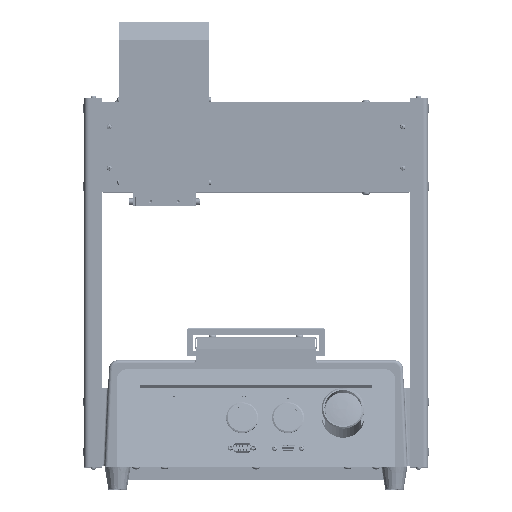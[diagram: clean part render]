
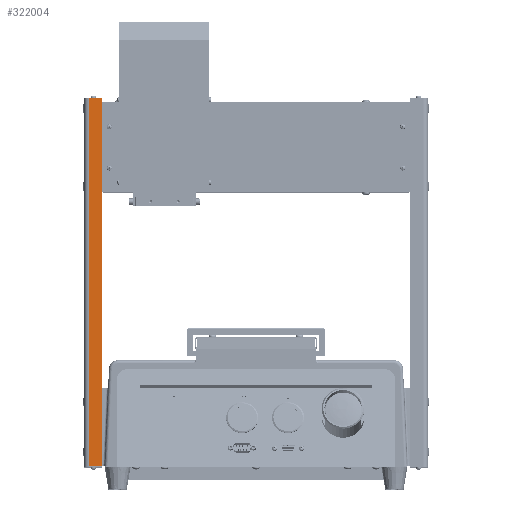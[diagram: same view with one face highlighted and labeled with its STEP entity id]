
A CAD part, top view. The second image highlights one B-rep face of the part: STEP entity #322004.
In plain terms, the highlighted planar face has unit normal (0, 0, 1).
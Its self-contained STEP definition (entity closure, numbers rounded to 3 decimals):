
#178840 = PLANE('',#178841);
#178841 = AXIS2_PLACEMENT_3D('',#178842,#178843,#178844);
#178842 = CARTESIAN_POINT('',(71.735,196.831,
    413.684));
#178843 = DIRECTION('',(0.,1.,0.));
#178844 = DIRECTION('',(0.,0.,1.));
#198396 = PLANE('',#198397);
#198397 = AXIS2_PLACEMENT_3D('',#198398,#198399,#198400);
#198398 = CARTESIAN_POINT('',(54.235,598.331,
    65.184));
#198399 = DIRECTION('',(0.,-1.,0.));
#198400 = DIRECTION('',(0.,0.,-1.));
#278687 = VERTEX_POINT('',#278688);
#278688 = CARTESIAN_POINT('',(54.235,598.331,
    162.184));
#278703 = CYLINDRICAL_SURFACE('',#278704,5.);
#278704 = AXIS2_PLACEMENT_3D('',#278705,#278706,#278707);
#278705 = CARTESIAN_POINT('',(54.235,596.831,
    157.184));
#278706 = DIRECTION('',(0.,-1.,0.));
#278707 = DIRECTION('',(-1.,0.,0.));
#278715 = EDGE_CURVE('',#278716,#278687,#278718,.T.);
#278716 = VERTEX_POINT('',#278717);
#278717 = CARTESIAN_POINT('',(68.235,598.331,
    162.184));
#278718 = SURFACE_CURVE('',#278719,(#278723,#278730),.PCURVE_S1.);
#278719 = LINE('',#278720,#278721);
#278720 = CARTESIAN_POINT('',(54.235,598.331,
    162.184));
#278721 = VECTOR('',#278722,1.);
#278722 = DIRECTION('',(-1.,0.,0.));
#278723 = PCURVE('',#198396,#278724);
#278724 = DEFINITIONAL_REPRESENTATION('',(#278725),#278729);
#278725 = LINE('',#278726,#278727);
#278726 = CARTESIAN_POINT('',(-97.,0.));
#278727 = VECTOR('',#278728,1.);
#278728 = DIRECTION('',(0.,-1.));
#278729 = ( GEOMETRIC_REPRESENTATION_CONTEXT(2) 
PARAMETRIC_REPRESENTATION_CONTEXT() REPRESENTATION_CONTEXT('2D SPACE',''
  ) );
#278730 = PCURVE('',#278731,#278736);
#278731 = PLANE('',#278732);
#278732 = AXIS2_PLACEMENT_3D('',#278733,#278734,#278735);
#278733 = CARTESIAN_POINT('',(69.235,596.831,
    162.184));
#278734 = DIRECTION('',(0.,0.,1.));
#278735 = DIRECTION('',(1.,0.,0.));
#278736 = DEFINITIONAL_REPRESENTATION('',(#278737),#278741);
#278737 = LINE('',#278738,#278739);
#278738 = CARTESIAN_POINT('',(-15.,1.5));
#278739 = VECTOR('',#278740,1.);
#278740 = DIRECTION('',(-1.,0.));
#278741 = ( GEOMETRIC_REPRESENTATION_CONTEXT(2) 
PARAMETRIC_REPRESENTATION_CONTEXT() REPRESENTATION_CONTEXT('2D SPACE',''
  ) );
#278760 = CYLINDRICAL_SURFACE('',#278761,1.);
#278761 = AXIS2_PLACEMENT_3D('',#278762,#278763,#278764);
#278762 = CARTESIAN_POINT('',(68.235,596.831,
    161.184));
#278763 = DIRECTION('',(0.,-1.,0.));
#278764 = DIRECTION('',(-1.,0.,0.));
#322004 = ADVANCED_FACE('',(#322005),#278731,.T.);
#322005 = FACE_BOUND('',#322006,.T.);
#322006 = EDGE_LOOP('',(#322007,#322032,#322053,#322054));
#322007 = ORIENTED_EDGE('',*,*,#322008,.F.);
#322008 = EDGE_CURVE('',#322009,#322011,#322013,.T.);
#322009 = VERTEX_POINT('',#322010);
#322010 = CARTESIAN_POINT('',(68.235,196.831,
    162.184));
#322011 = VERTEX_POINT('',#322012);
#322012 = CARTESIAN_POINT('',(54.235,196.831,
    162.184));
#322013 = SURFACE_CURVE('',#322014,(#322018,#322025),.PCURVE_S1.);
#322014 = LINE('',#322015,#322016);
#322015 = CARTESIAN_POINT('',(69.235,196.831,
    162.184));
#322016 = VECTOR('',#322017,1.);
#322017 = DIRECTION('',(-1.,0.,0.));
#322018 = PCURVE('',#278731,#322019);
#322019 = DEFINITIONAL_REPRESENTATION('',(#322020),#322024);
#322020 = LINE('',#322021,#322022);
#322021 = CARTESIAN_POINT('',(0.,-400.));
#322022 = VECTOR('',#322023,1.);
#322023 = DIRECTION('',(-1.,0.));
#322024 = ( GEOMETRIC_REPRESENTATION_CONTEXT(2) 
PARAMETRIC_REPRESENTATION_CONTEXT() REPRESENTATION_CONTEXT('2D SPACE',''
  ) );
#322025 = PCURVE('',#178840,#322026);
#322026 = DEFINITIONAL_REPRESENTATION('',(#322027),#322031);
#322027 = LINE('',#322028,#322029);
#322028 = CARTESIAN_POINT('',(-251.5,-2.5));
#322029 = VECTOR('',#322030,1.);
#322030 = DIRECTION('',(0.,-1.));
#322031 = ( GEOMETRIC_REPRESENTATION_CONTEXT(2) 
PARAMETRIC_REPRESENTATION_CONTEXT() REPRESENTATION_CONTEXT('2D SPACE',''
  ) );
#322032 = ORIENTED_EDGE('',*,*,#322033,.F.);
#322033 = EDGE_CURVE('',#278716,#322009,#322034,.T.);
#322034 = SURFACE_CURVE('',#322035,(#322039,#322046),.PCURVE_S1.);
#322035 = LINE('',#322036,#322037);
#322036 = CARTESIAN_POINT('',(68.235,596.831,
    162.184));
#322037 = VECTOR('',#322038,1.);
#322038 = DIRECTION('',(0.,-1.,0.));
#322039 = PCURVE('',#278731,#322040);
#322040 = DEFINITIONAL_REPRESENTATION('',(#322041),#322045);
#322041 = LINE('',#322042,#322043);
#322042 = CARTESIAN_POINT('',(-1.,0.));
#322043 = VECTOR('',#322044,1.);
#322044 = DIRECTION('',(0.,-1.));
#322045 = ( GEOMETRIC_REPRESENTATION_CONTEXT(2) 
PARAMETRIC_REPRESENTATION_CONTEXT() REPRESENTATION_CONTEXT('2D SPACE',''
  ) );
#322046 = PCURVE('',#278760,#322047);
#322047 = DEFINITIONAL_REPRESENTATION('',(#322048),#322052);
#322048 = LINE('',#322049,#322050);
#322049 = CARTESIAN_POINT('',(4.712,0.));
#322050 = VECTOR('',#322051,1.);
#322051 = DIRECTION('',(0.,1.));
#322052 = ( GEOMETRIC_REPRESENTATION_CONTEXT(2) 
PARAMETRIC_REPRESENTATION_CONTEXT() REPRESENTATION_CONTEXT('2D SPACE',''
  ) );
#322053 = ORIENTED_EDGE('',*,*,#278715,.T.);
#322054 = ORIENTED_EDGE('',*,*,#322055,.T.);
#322055 = EDGE_CURVE('',#278687,#322011,#322056,.T.);
#322056 = SURFACE_CURVE('',#322057,(#322061,#322068),.PCURVE_S1.);
#322057 = LINE('',#322058,#322059);
#322058 = CARTESIAN_POINT('',(54.235,596.831,
    162.184));
#322059 = VECTOR('',#322060,1.);
#322060 = DIRECTION('',(0.,-1.,0.));
#322061 = PCURVE('',#278731,#322062);
#322062 = DEFINITIONAL_REPRESENTATION('',(#322063),#322067);
#322063 = LINE('',#322064,#322065);
#322064 = CARTESIAN_POINT('',(-15.,0.));
#322065 = VECTOR('',#322066,1.);
#322066 = DIRECTION('',(0.,-1.));
#322067 = ( GEOMETRIC_REPRESENTATION_CONTEXT(2) 
PARAMETRIC_REPRESENTATION_CONTEXT() REPRESENTATION_CONTEXT('2D SPACE',''
  ) );
#322068 = PCURVE('',#278703,#322069);
#322069 = DEFINITIONAL_REPRESENTATION('',(#322070),#322074);
#322070 = LINE('',#322071,#322072);
#322071 = CARTESIAN_POINT('',(4.712,0.));
#322072 = VECTOR('',#322073,1.);
#322073 = DIRECTION('',(0.,1.));
#322074 = ( GEOMETRIC_REPRESENTATION_CONTEXT(2) 
PARAMETRIC_REPRESENTATION_CONTEXT() REPRESENTATION_CONTEXT('2D SPACE',''
  ) );
